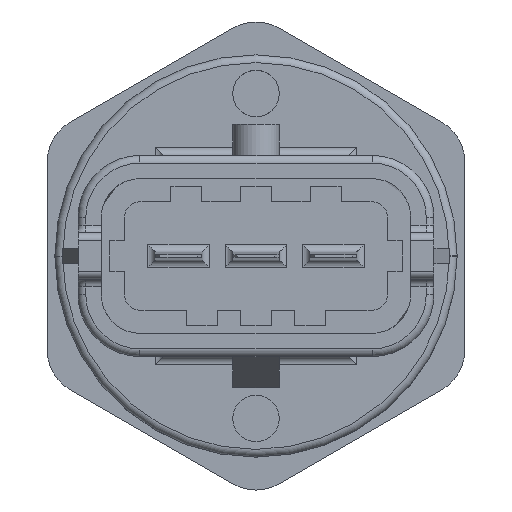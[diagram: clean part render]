
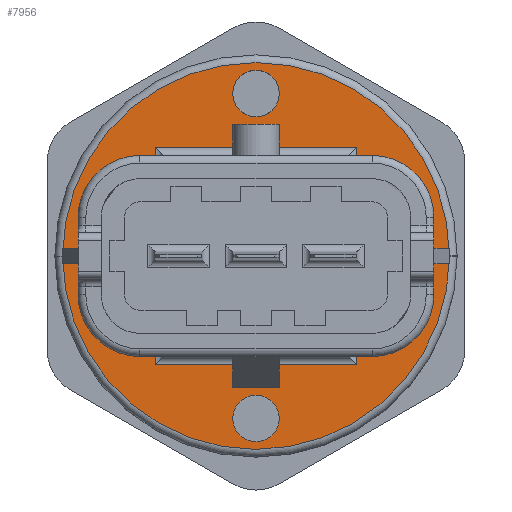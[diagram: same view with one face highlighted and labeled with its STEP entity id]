
A CAD part, left-side view. The second image highlights one B-rep face of the part: STEP entity #7956.
In plain terms, the highlighted planar face has unit normal (-1, 0, 0).
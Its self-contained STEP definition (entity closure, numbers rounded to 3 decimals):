
#7543=AXIS2_PLACEMENT_3D('Circle Axis2P3D',#7541,#7542,$) ;
#7592=AXIS2_PLACEMENT_3D('Circle Axis2P3D',#7590,#7591,$) ;
#7704=AXIS2_PLACEMENT_3D('Circle Axis2P3D',#7702,#7703,$) ;
#7753=AXIS2_PLACEMENT_3D('Circle Axis2P3D',#7751,#7752,$) ;
#7869=AXIS2_PLACEMENT_3D('Circle Axis2P3D',#7867,#7868,$) ;
#7893=AXIS2_PLACEMENT_3D('Circle Axis2P3D',#7891,#7892,$) ;
#7906=AXIS2_PLACEMENT_3D('Plane Axis2P3D',#7903,#7904,#7905) ;
#7910=AXIS2_PLACEMENT_3D('Circle Axis2P3D',#7908,#7909,$) ;
#7919=AXIS2_PLACEMENT_3D('Circle Axis2P3D',#7917,#7918,$) ;
#7926=AXIS2_PLACEMENT_3D('Circle Axis2P3D',#7924,#7925,$) ;
#7485=CARTESIAN_POINT('Vertex',(-8.55,-6.5,7.)) ;
#7488=CARTESIAN_POINT('Line Origine',(-8.55,0.,7.)) ;
#7492=CARTESIAN_POINT('Vertex',(-8.55,6.5,7.)) ;
#7515=CARTESIAN_POINT('Line Origine',(-8.55,6.5,0.)) ;
#7519=CARTESIAN_POINT('Vertex',(-8.55,6.5,4.969)) ;
#7541=CARTESIAN_POINT('Axis2P3D Location',(-8.55,6.,1.)) ;
#7545=CARTESIAN_POINT('Vertex',(-8.55,10.,1.)) ;
#7566=CARTESIAN_POINT('Line Origine',(-8.55,10.,0.)) ;
#7570=CARTESIAN_POINT('Vertex',(-8.55,10.,-1.)) ;
#7590=CARTESIAN_POINT('Axis2P3D Location',(-8.55,6.,-1.)) ;
#7594=CARTESIAN_POINT('Vertex',(-8.55,6.5,-4.969)) ;
#7622=CARTESIAN_POINT('Line Origine',(-8.55,6.5,0.)) ;
#7626=CARTESIAN_POINT('Vertex',(-8.55,6.5,-7.)) ;
#7649=CARTESIAN_POINT('Line Origine',(-8.55,0.,-7.)) ;
#7653=CARTESIAN_POINT('Vertex',(-8.55,-6.5,-7.)) ;
#7676=CARTESIAN_POINT('Line Origine',(-8.55,-6.5,0.)) ;
#7680=CARTESIAN_POINT('Vertex',(-8.55,-6.5,-4.969)) ;
#7702=CARTESIAN_POINT('Axis2P3D Location',(-8.55,-6.,-1.)) ;
#7706=CARTESIAN_POINT('Vertex',(-8.55,-10.,-1.)) ;
#7727=CARTESIAN_POINT('Line Origine',(-8.55,-10.,0.)) ;
#7731=CARTESIAN_POINT('Vertex',(-8.55,-10.,1.)) ;
#7751=CARTESIAN_POINT('Axis2P3D Location',(-8.55,-6.,1.)) ;
#7755=CARTESIAN_POINT('Vertex',(-8.55,-6.5,4.969)) ;
#7783=CARTESIAN_POINT('Line Origine',(-8.55,-6.5,0.)) ;
#7804=CARTESIAN_POINT('Vertex',(-8.55,1.5,10.5)) ;
#7808=CARTESIAN_POINT('Control Point',(-8.55,1.5,10.5)) ;
#7809=CARTESIAN_POINT('Control Point',(-8.55,1.5,10.029)) ;
#7810=CARTESIAN_POINT('Control Point',(-8.55,1.315,9.558)) ;
#7811=CARTESIAN_POINT('Control Point',(-8.55,0.942,9.185)) ;
#7812=CARTESIAN_POINT('Control Point',(-8.55,0.,8.815)) ;
#7813=CARTESIAN_POINT('Control Point',(-8.55,-0.942,9.185)) ;
#7814=CARTESIAN_POINT('Control Point',(-8.55,-1.315,9.558)) ;
#7815=CARTESIAN_POINT('Control Point',(-8.55,-1.5,10.029)) ;
#7816=CARTESIAN_POINT('Control Point',(-8.55,-1.5,10.5)) ;
#7817=CARTESIAN_POINT('Vertex',(-8.55,-1.5,10.5)) ;
#7838=CARTESIAN_POINT('Control Point',(-8.55,-1.5,10.5)) ;
#7839=CARTESIAN_POINT('Control Point',(-8.55,-1.5,10.971)) ;
#7840=CARTESIAN_POINT('Control Point',(-8.55,-1.315,11.442)) ;
#7841=CARTESIAN_POINT('Control Point',(-8.55,-0.942,11.815)) ;
#7842=CARTESIAN_POINT('Control Point',(-8.55,0.,12.185)) ;
#7843=CARTESIAN_POINT('Control Point',(-8.55,0.942,11.815)) ;
#7844=CARTESIAN_POINT('Control Point',(-8.55,1.315,11.442)) ;
#7845=CARTESIAN_POINT('Control Point',(-8.55,1.5,10.971)) ;
#7846=CARTESIAN_POINT('Control Point',(-8.55,1.5,10.5)) ;
#7864=CARTESIAN_POINT('Vertex',(-8.55,-1.5,-10.5)) ;
#7867=CARTESIAN_POINT('Axis2P3D Location',(-8.55,0.,-10.5)) ;
#7871=CARTESIAN_POINT('Vertex',(-8.55,1.5,-10.5)) ;
#7891=CARTESIAN_POINT('Axis2P3D Location',(-8.55,0.,-10.5)) ;
#7903=CARTESIAN_POINT('Axis2P3D Location',(-8.55,0.,0.)) ;
#7908=CARTESIAN_POINT('Axis2P3D Location',(-8.55,0.,0.)) ;
#7912=CARTESIAN_POINT('Vertex',(-8.55,12.5,0.)) ;
#7914=CARTESIAN_POINT('Vertex',(-8.55,-12.5,-0.039)) ;
#7917=CARTESIAN_POINT('Axis2P3D Location',(-8.55,0.,0.)) ;
#7921=CARTESIAN_POINT('Vertex',(-8.55,-12.5,0.)) ;
#7924=CARTESIAN_POINT('Axis2P3D Location',(-8.55,0.,0.)) ;
#7489=DIRECTION('Vector Direction',(0.,-1.,0.)) ;
#7516=DIRECTION('Vector Direction',(0.,0.,-1.)) ;
#7542=DIRECTION('Axis2P3D Direction',(-1.,0.,0.)) ;
#7567=DIRECTION('Vector Direction',(0.,0.,1.)) ;
#7591=DIRECTION('Axis2P3D Direction',(-1.,0.,0.)) ;
#7623=DIRECTION('Vector Direction',(0.,0.,-1.)) ;
#7650=DIRECTION('Vector Direction',(0.,1.,0.)) ;
#7677=DIRECTION('Vector Direction',(0.,0.,-1.)) ;
#7703=DIRECTION('Axis2P3D Direction',(-1.,0.,0.)) ;
#7728=DIRECTION('Vector Direction',(0.,0.,-1.)) ;
#7752=DIRECTION('Axis2P3D Direction',(-1.,-0.,0.)) ;
#7784=DIRECTION('Vector Direction',(0.,0.,-1.)) ;
#7868=DIRECTION('Axis2P3D Direction',(1.,0.,0.)) ;
#7892=DIRECTION('Axis2P3D Direction',(1.,0.,0.)) ;
#7904=DIRECTION('Axis2P3D Direction',(-1.,0.,0.)) ;
#7905=DIRECTION('Axis2P3D XDirection',(0.,-1.,0.)) ;
#7909=DIRECTION('Axis2P3D Direction',(-1.,0.,0.)) ;
#7918=DIRECTION('Axis2P3D Direction',(-1.,0.,0.)) ;
#7925=DIRECTION('Axis2P3D Direction',(-1.,0.,0.)) ;
#7490=VECTOR('Line Direction',#7489,1.) ;
#7517=VECTOR('Line Direction',#7516,1.) ;
#7568=VECTOR('Line Direction',#7567,1.) ;
#7624=VECTOR('Line Direction',#7623,1.) ;
#7651=VECTOR('Line Direction',#7650,1.) ;
#7678=VECTOR('Line Direction',#7677,1.) ;
#7729=VECTOR('Line Direction',#7728,1.) ;
#7785=VECTOR('Line Direction',#7784,1.) ;
#7930=ORIENTED_EDGE('',*,*,#7916,.T.) ;
#7931=ORIENTED_EDGE('',*,*,#7923,.T.) ;
#7932=ORIENTED_EDGE('',*,*,#7928,.T.) ;
#7935=ORIENTED_EDGE('',*,*,#7895,.T.) ;
#7936=ORIENTED_EDGE('',*,*,#7873,.T.) ;
#7939=ORIENTED_EDGE('',*,*,#7847,.F.) ;
#7940=ORIENTED_EDGE('',*,*,#7819,.F.) ;
#7943=ORIENTED_EDGE('',*,*,#7787,.T.) ;
#7944=ORIENTED_EDGE('',*,*,#7757,.F.) ;
#7945=ORIENTED_EDGE('',*,*,#7733,.F.) ;
#7946=ORIENTED_EDGE('',*,*,#7708,.F.) ;
#7947=ORIENTED_EDGE('',*,*,#7682,.T.) ;
#7948=ORIENTED_EDGE('',*,*,#7655,.F.) ;
#7949=ORIENTED_EDGE('',*,*,#7628,.T.) ;
#7950=ORIENTED_EDGE('',*,*,#7596,.F.) ;
#7951=ORIENTED_EDGE('',*,*,#7572,.F.) ;
#7952=ORIENTED_EDGE('',*,*,#7547,.F.) ;
#7953=ORIENTED_EDGE('',*,*,#7521,.T.) ;
#7954=ORIENTED_EDGE('',*,*,#7494,.F.) ;
#7937=FACE_BOUND('',#7934,.T.) ;
#7941=FACE_BOUND('',#7938,.T.) ;
#7955=FACE_BOUND('',#7942,.T.) ;
#7956=ADVANCED_FACE('PartBody',(#7933,#7937,#7941,#7955),#7907,.T.) ;
#7807=B_SPLINE_CURVE_WITH_KNOTS('',5,(#7808,#7809,#7810,#7811,#7812,#7813,#7814,#7815,#7816),.UNSPECIFIED.,.F.,.U.,(6,3,6),(-2.356,0.,2.356),.UNSPECIFIED.) ;
#7837=B_SPLINE_CURVE_WITH_KNOTS('',5,(#7838,#7839,#7840,#7841,#7842,#7843,#7844,#7845,#7846),.UNSPECIFIED.,.F.,.U.,(6,3,6),(-2.356,0.,2.356),.UNSPECIFIED.) ;
#7544=CIRCLE('generated circle',#7543,4.) ;
#7593=CIRCLE('generated circle',#7592,4.) ;
#7705=CIRCLE('generated circle',#7704,4.) ;
#7754=CIRCLE('generated circle',#7753,4.) ;
#7870=CIRCLE('generated circle',#7869,1.5) ;
#7894=CIRCLE('generated circle',#7893,1.5) ;
#7911=CIRCLE('generated circle',#7910,12.5) ;
#7920=CIRCLE('generated circle',#7919,12.5) ;
#7927=CIRCLE('generated circle',#7926,12.5) ;
#7494=EDGE_CURVE('',#7486,#7493,#7491,.F.) ;
#7521=EDGE_CURVE('',#7520,#7493,#7518,.F.) ;
#7547=EDGE_CURVE('',#7520,#7546,#7544,.T.) ;
#7572=EDGE_CURVE('',#7546,#7571,#7569,.F.) ;
#7596=EDGE_CURVE('',#7571,#7595,#7593,.T.) ;
#7628=EDGE_CURVE('',#7627,#7595,#7625,.F.) ;
#7655=EDGE_CURVE('',#7627,#7654,#7652,.F.) ;
#7682=EDGE_CURVE('',#7681,#7654,#7679,.T.) ;
#7708=EDGE_CURVE('',#7681,#7707,#7705,.T.) ;
#7733=EDGE_CURVE('',#7707,#7732,#7730,.F.) ;
#7757=EDGE_CURVE('',#7732,#7756,#7754,.T.) ;
#7787=EDGE_CURVE('',#7486,#7756,#7786,.T.) ;
#7819=EDGE_CURVE('',#7805,#7818,#7807,.T.) ;
#7847=EDGE_CURVE('',#7818,#7805,#7837,.T.) ;
#7873=EDGE_CURVE('',#7872,#7865,#7870,.T.) ;
#7895=EDGE_CURVE('',#7865,#7872,#7894,.T.) ;
#7916=EDGE_CURVE('',#7913,#7915,#7911,.T.) ;
#7923=EDGE_CURVE('',#7915,#7922,#7920,.T.) ;
#7928=EDGE_CURVE('',#7922,#7913,#7927,.T.) ;
#7929=EDGE_LOOP('',(#7930,#7931,#7932)) ;
#7934=EDGE_LOOP('',(#7935,#7936)) ;
#7938=EDGE_LOOP('',(#7939,#7940)) ;
#7942=EDGE_LOOP('',(#7943,#7944,#7945,#7946,#7947,#7948,#7949,#7950,#7951,#7952,#7953,#7954)) ;
#7933=FACE_OUTER_BOUND('',#7929,.T.) ;
#7491=LINE('Line',#7488,#7490) ;
#7518=LINE('Line',#7515,#7517) ;
#7569=LINE('Line',#7566,#7568) ;
#7625=LINE('Line',#7622,#7624) ;
#7652=LINE('Line',#7649,#7651) ;
#7679=LINE('Line',#7676,#7678) ;
#7730=LINE('Line',#7727,#7729) ;
#7786=LINE('Line',#7783,#7785) ;
#7907=PLANE('Plane',#7906) ;
#7486=VERTEX_POINT('',#7485) ;
#7493=VERTEX_POINT('',#7492) ;
#7520=VERTEX_POINT('',#7519) ;
#7546=VERTEX_POINT('',#7545) ;
#7571=VERTEX_POINT('',#7570) ;
#7595=VERTEX_POINT('',#7594) ;
#7627=VERTEX_POINT('',#7626) ;
#7654=VERTEX_POINT('',#7653) ;
#7681=VERTEX_POINT('',#7680) ;
#7707=VERTEX_POINT('',#7706) ;
#7732=VERTEX_POINT('',#7731) ;
#7756=VERTEX_POINT('',#7755) ;
#7805=VERTEX_POINT('',#7804) ;
#7818=VERTEX_POINT('',#7817) ;
#7865=VERTEX_POINT('',#7864) ;
#7872=VERTEX_POINT('',#7871) ;
#7913=VERTEX_POINT('',#7912) ;
#7915=VERTEX_POINT('',#7914) ;
#7922=VERTEX_POINT('',#7921) ;
